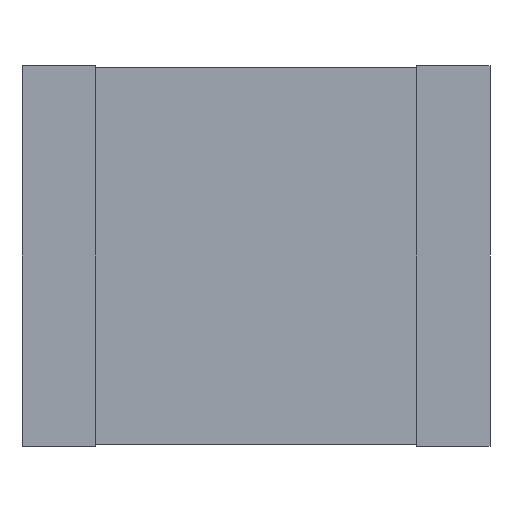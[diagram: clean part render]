
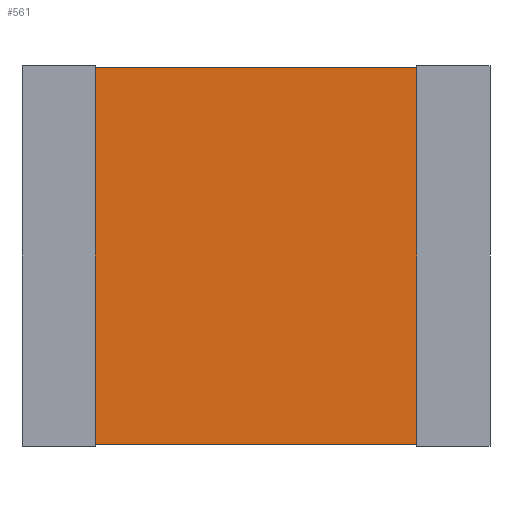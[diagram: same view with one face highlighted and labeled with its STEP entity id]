
A CAD part, front view. The second image highlights one B-rep face of the part: STEP entity #561.
In plain terms, the highlighted planar face has unit normal (0, -1, 0).
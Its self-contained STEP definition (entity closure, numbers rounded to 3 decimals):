
#21=FACE_OUTER_BOUND('',#53,.T.);
#53=EDGE_LOOP('',(#361,#362,#363,#364));
#81=LINE('',#768,#153);
#85=LINE('',#776,#157);
#88=LINE('',#782,#160);
#91=LINE('',#787,#163);
#153=VECTOR('',#630,2.572);
#157=VECTOR('',#636,3.172);
#160=VECTOR('',#641,2.572);
#163=VECTOR('',#646,3.172);
#225=VERTEX_POINT('',#766);
#226=VERTEX_POINT('',#767);
#229=VERTEX_POINT('',#775);
#231=VERTEX_POINT('',#781);
#273=EDGE_CURVE('',#225,#226,#81,.T.);
#277=EDGE_CURVE('',#226,#229,#85,.T.);
#280=EDGE_CURVE('',#229,#231,#88,.T.);
#283=EDGE_CURVE('',#231,#225,#91,.T.);
#361=ORIENTED_EDGE('',*,*,#283,.T.);
#362=ORIENTED_EDGE('',*,*,#273,.T.);
#363=ORIENTED_EDGE('',*,*,#277,.T.);
#364=ORIENTED_EDGE('',*,*,#280,.T.);
#493=PLANE('',#598);
#561=ADVANCED_FACE('',(#21),#493,.F.);
#598=AXIS2_PLACEMENT_3D('',#789,#648,#649);
#630=DIRECTION('',(0.,0.,1.));
#636=DIRECTION('',(-1.,0.,0.));
#641=DIRECTION('',(0.,0.,-1.));
#646=DIRECTION('',(1.,0.,0.));
#648=DIRECTION('center_axis',(0.,1.,0.));
#649=DIRECTION('ref_axis',(0.,0.,1.));
#766=CARTESIAN_POINT('',(3.172,0.,0.));
#767=CARTESIAN_POINT('',(3.172,0.,2.572));
#768=CARTESIAN_POINT('',(3.172,0.,0.));
#775=CARTESIAN_POINT('',(0.,0.,2.572));
#776=CARTESIAN_POINT('',(3.172,0.,2.572));
#781=CARTESIAN_POINT('',(0.,0.,0.));
#782=CARTESIAN_POINT('',(0.,0.,2.572));
#787=CARTESIAN_POINT('',(0.,0.,0.));
#789=CARTESIAN_POINT('Origin',(1.586,0.,1.286));
